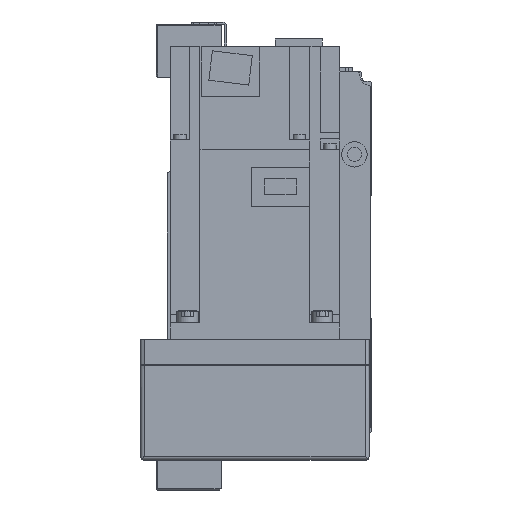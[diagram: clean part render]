
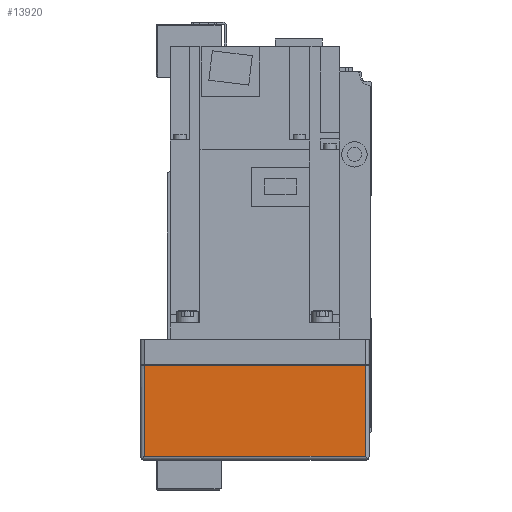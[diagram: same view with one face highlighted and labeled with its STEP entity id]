
A CAD part, left-side view. The second image highlights one B-rep face of the part: STEP entity #13920.
In plain terms, the highlighted planar face has unit normal (-1, 0, 0).
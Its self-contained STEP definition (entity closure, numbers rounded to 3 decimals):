
#2508=ORIENTED_EDGE('',*,*,#5778,.T.);
#2509=ORIENTED_EDGE('',*,*,#5706,.T.);
#2510=ORIENTED_EDGE('',*,*,#5779,.F.);
#2511=ORIENTED_EDGE('',*,*,#5718,.F.);
#5706=EDGE_CURVE('',#7490,#7493,#8952,.T.);
#5718=EDGE_CURVE('',#7500,#7502,#8957,.T.);
#5778=EDGE_CURVE('',#7500,#7490,#8999,.T.);
#5779=EDGE_CURVE('',#7502,#7493,#9000,.T.);
#7490=VERTEX_POINT('',#21773);
#7493=VERTEX_POINT('',#21779);
#7500=VERTEX_POINT('',#21802);
#7502=VERTEX_POINT('',#21805);
#8952=LINE('',#21780,#10265);
#8957=LINE('',#21804,#10270);
#8999=LINE('',#21928,#10312);
#9000=LINE('',#21929,#10313);
#10265=VECTOR('',#17389,1000.);
#10270=VECTOR('',#17416,1000.);
#10312=VECTOR('',#17536,1000.);
#10313=VECTOR('',#17537,1000.);
#11421=EDGE_LOOP('',(#2508,#2509,#2510,#2511));
#12460=FACE_BOUND('',#11421,.T.);
#13331=PLANE('',#14959);
#13920=ADVANCED_FACE('',(#12460),#13331,.T.);
#14959=AXIS2_PLACEMENT_3D('',#21927,#17534,#17535);
#17389=DIRECTION('',(0.,0.,1.));
#17416=DIRECTION('',(0.,0.,1.));
#17534=DIRECTION('',(-1.,0.,0.));
#17535=DIRECTION('',(0.,0.,1.));
#17536=DIRECTION('',(0.,-1.,0.));
#17537=DIRECTION('',(0.,-1.,0.));
#21773=CARTESIAN_POINT('',(-230.,-52.,-55.));
#21779=CARTESIAN_POINT('',(-230.,-52.,-12.));
#21780=CARTESIAN_POINT('',(-230.,-52.,-57.));
#21802=CARTESIAN_POINT('',(-230.,52.,-55.));
#21804=CARTESIAN_POINT('',(-230.,52.,-57.));
#21805=CARTESIAN_POINT('',(-230.,52.,-12.));
#21927=CARTESIAN_POINT('',(-230.,52.,-57.));
#21928=CARTESIAN_POINT('',(-230.,54.,-55.));
#21929=CARTESIAN_POINT('',(-230.,52.,-12.));
